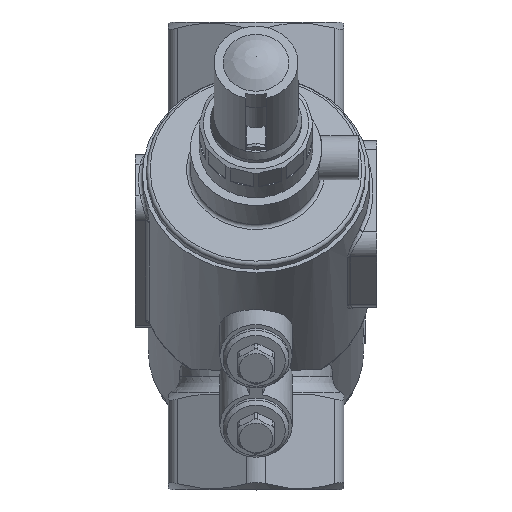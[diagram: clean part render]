
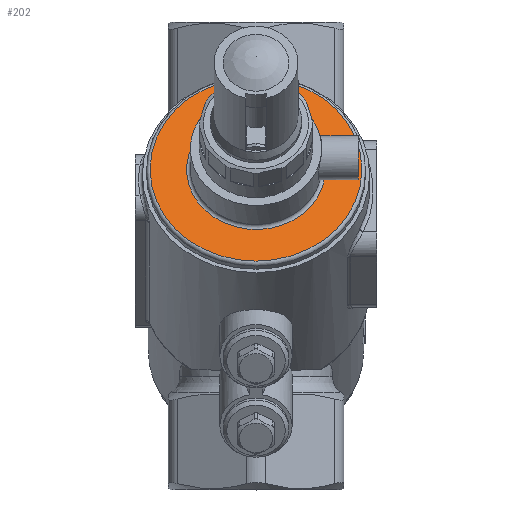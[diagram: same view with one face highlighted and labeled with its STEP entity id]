
A CAD part, top view. The second image highlights one B-rep face of the part: STEP entity #202.
In plain terms, the highlighted planar face has unit normal (0, 0.5, 0.866).
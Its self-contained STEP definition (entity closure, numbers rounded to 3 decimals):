
#202=ADVANCED_FACE('',(#2705,#2707),#2709,.T.);
#2705=FACE_BOUND('',#2706,.T.);
#2706=EDGE_LOOP('',(#5285));
#2707=FACE_BOUND('',#2708,.T.);
#2708=EDGE_LOOP('',(#5286,#5287));
#2709=PLANE('',#2710);
#2710=AXIS2_PLACEMENT_3D('',#2711,#2712,#2713);
#2711=CARTESIAN_POINT('',(0.,31.6,54.733));
#2712=DIRECTION('',(0.,0.5,0.866));
#2713=DIRECTION('',(0.,-0.866,0.5));
#5285=ORIENTED_EDGE('',*,*,#7422,.T.);
#5286=ORIENTED_EDGE('',*,*,#7450,.F.);
#5287=ORIENTED_EDGE('',*,*,#7451,.F.);
#7422=EDGE_CURVE('',#8774,#8774,#8775,.T.);
#7450=EDGE_CURVE('',#8821,#8822,#8823,.T.);
#7451=EDGE_CURVE('',#8822,#8821,#8824,.T.);
#8774=VERTEX_POINT('',#16139);
#8775=CIRCLE('',#16140,29.);
#8821=VERTEX_POINT('',#16253);
#8822=VERTEX_POINT('',#16254);
#8823=CIRCLE('',#16255,19.);
#8824=B_SPLINE_CURVE_WITH_KNOTS('',3,
(#16259,#16260,#16261,#16262,#16263,#16264,#16265,#16266,#16267,#16268,#16269,#16270,
#16271,#16272,#16273,#16274,#16275,#16276,#16277,#16278,#16279,#16280),
.UNSPECIFIED.,.F.,.F.,
(4,2,2,2,2,2,2,2,2,2,4),
(0.,0.096,0.194,0.267,0.38,0.496,
0.611,0.727,0.839,0.919,1.),
.UNSPECIFIED.);
#16139=CARTESIAN_POINT('',(0.,6.485,69.233));
#16140=AXIS2_PLACEMENT_3D('',#16141,#16142,#16143);
#16141=CARTESIAN_POINT('',(0.,31.6,54.733));
#16142=DIRECTION('',(0.,0.5,0.866));
#16143=DIRECTION('',(0.,-0.866,0.5));
#16253=CARTESIAN_POINT('',(18.774,34.129,53.273));
#16254=CARTESIAN_POINT('',(18.774,29.071,56.193));
#16255=AXIS2_PLACEMENT_3D('',#16256,#16257,#16258);
#16256=CARTESIAN_POINT('',(0.,31.6,54.733));
#16257=DIRECTION('',(0.,0.5,0.866));
#16258=DIRECTION('',(0.988,0.133,-0.077));
#16259=CARTESIAN_POINT('',(18.774,29.071,56.193));
#16260=CARTESIAN_POINT('',(18.794,29.222,56.106));
#16261=CARTESIAN_POINT('',(18.814,29.372,56.019));
#16262=CARTESIAN_POINT('',(18.83,29.688,55.836));
#16263=CARTESIAN_POINT('',(18.826,29.854,55.741));
#16264=CARTESIAN_POINT('',(18.816,30.142,55.574));
#16265=CARTESIAN_POINT('',(18.807,30.267,55.503));
#16266=CARTESIAN_POINT('',(18.787,30.585,55.319));
#16267=CARTESIAN_POINT('',(18.768,30.781,55.206));
#16268=CARTESIAN_POINT('',(18.748,31.176,54.977));
#16269=CARTESIAN_POINT('',(18.738,31.377,54.861));
#16270=CARTESIAN_POINT('',(18.737,31.778,54.63));
#16271=CARTESIAN_POINT('',(18.745,31.979,54.514));
#16272=CARTESIAN_POINT('',(18.765,32.378,54.284));
#16273=CARTESIAN_POINT('',(18.785,32.579,54.168));
#16274=CARTESIAN_POINT('',(18.808,32.968,53.943));
#16275=CARTESIAN_POINT('',(18.823,33.159,53.833));
#16276=CARTESIAN_POINT('',(18.826,33.48,53.647));
#16277=CARTESIAN_POINT('',(18.827,33.614,53.57));
#16278=CARTESIAN_POINT('',(18.81,33.874,53.42));
#16279=CARTESIAN_POINT('',(18.792,34.002,53.346));
#16280=CARTESIAN_POINT('',(18.774,34.129,53.273));
